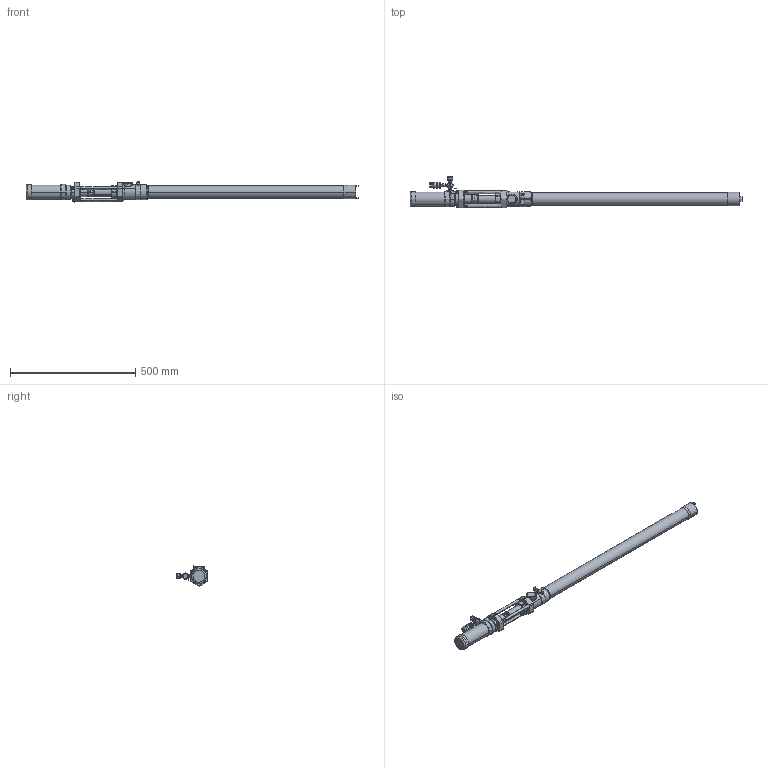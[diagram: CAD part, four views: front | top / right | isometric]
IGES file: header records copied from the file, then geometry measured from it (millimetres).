
Start section:  PTC IGES file: 226941-en-zaf.igs
Global section: file name: 226941-en-zaf.igs; native system: Creo Parametric by PTC Inc.; preprocessor: 2021072; author: qtmwp1; organization: Unknown; date: 20220221.150138; units: inch
Bounding box: 1326.52 x 125 x 80.04 mm (x, y, z)
Surface area: 339371.1 mm2 (no closed solid volume)
Topology: 0 solids, 0 shells, 289 faces, 1328 edges, 1328 vertices
Faces by surface type: revolution 184, bspline 105
